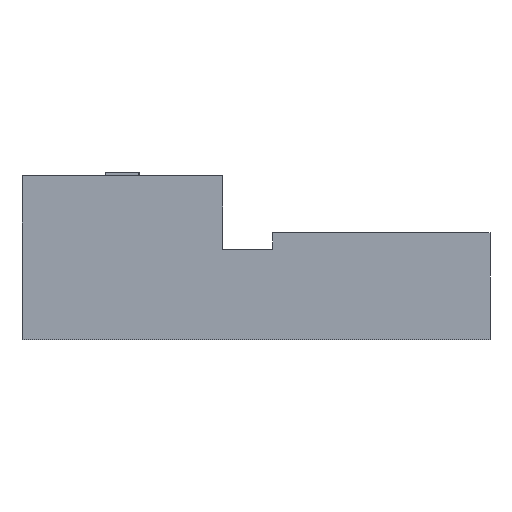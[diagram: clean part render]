
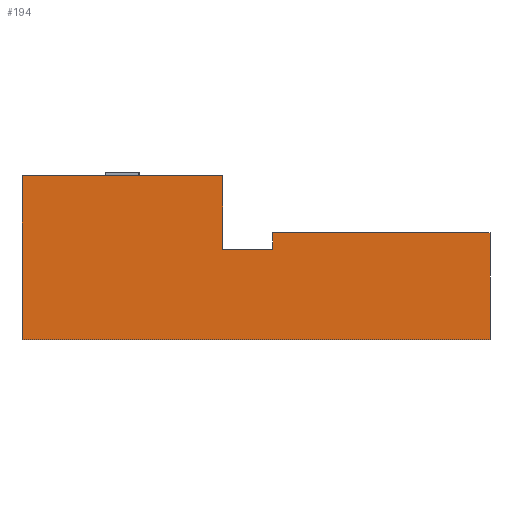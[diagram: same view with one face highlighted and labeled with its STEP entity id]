
A CAD part, left-side view. The second image highlights one B-rep face of the part: STEP entity #194.
In plain terms, the highlighted planar face has unit normal (-1, 0, 0).
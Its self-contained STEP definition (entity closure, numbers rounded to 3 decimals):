
#194=ADVANCED_FACE('',(#322),#324,.T.);
#322=FACE_BOUND('',#323,.T.);
#323=EDGE_LOOP('',(#583,#584,#585,#586,#587,#588,#589,#590));
#324=PLANE('',#325);
#325=AXIS2_PLACEMENT_3D('',#326,#327,#328);
#326=CARTESIAN_POINT('',(-4.5,7.,0.));
#327=DIRECTION('',(-1.,0.,0.));
#328=DIRECTION('',(0.,-1.,0.));
#583=ORIENTED_EDGE('',*,*,#755,.F.);
#584=ORIENTED_EDGE('',*,*,#771,.F.);
#585=ORIENTED_EDGE('',*,*,#769,.T.);
#586=ORIENTED_EDGE('',*,*,#767,.T.);
#587=ORIENTED_EDGE('',*,*,#763,.F.);
#588=ORIENTED_EDGE('',*,*,#762,.T.);
#589=ORIENTED_EDGE('',*,*,#759,.T.);
#590=ORIENTED_EDGE('',*,*,#758,.T.);
#755=EDGE_CURVE('',#916,#918,#919,.T.);
#758=EDGE_CURVE('',#921,#918,#923,.T.);
#759=EDGE_CURVE('',#924,#921,#925,.F.);
#762=EDGE_CURVE('',#927,#924,#929,.F.);
#763=EDGE_CURVE('',#927,#930,#931,.T.);
#767=EDGE_CURVE('',#935,#930,#937,.T.);
#769=EDGE_CURVE('',#938,#935,#940,.T.);
#771=EDGE_CURVE('',#938,#916,#943,.T.);
#916=VERTEX_POINT('',#1085);
#918=VERTEX_POINT('',#1089);
#919=LINE('',#1090,#1091);
#921=VERTEX_POINT('',#1096);
#923=LINE('',#1100,#1101);
#924=VERTEX_POINT('',#1103);
#925=LINE('',#1104,#1105);
#927=VERTEX_POINT('',#1110);
#929=LINE('',#1114,#1115);
#930=VERTEX_POINT('',#1117);
#931=LINE('',#1118,#1119);
#935=VERTEX_POINT('',#1129);
#937=LINE('',#1133,#1134);
#938=VERTEX_POINT('',#1136);
#940=LINE('',#1140,#1141);
#943=LINE('',#1148,#1149);
#1085=CARTESIAN_POINT('',(-4.5,7.,4.9));
#1089=CARTESIAN_POINT('',(-4.5,1.,4.9));
#1090=CARTESIAN_POINT('',(-4.5,7.,4.9));
#1091=VECTOR('',#1092,1.);
#1092=DIRECTION('',(0.,-1.,0.));
#1096=CARTESIAN_POINT('',(-4.5,1.,2.7));
#1100=CARTESIAN_POINT('',(-4.5,1.,2.7));
#1101=VECTOR('',#1102,1.);
#1102=DIRECTION('',(0.,0.,1.));
#1103=CARTESIAN_POINT('',(-4.5,-0.5,2.7));
#1104=CARTESIAN_POINT('',(-4.5,1.,2.7));
#1105=VECTOR('',#1106,1.);
#1106=DIRECTION('',(0.,-1.,0.));
#1110=CARTESIAN_POINT('',(-4.5,-0.5,3.2));
#1114=CARTESIAN_POINT('',(-4.5,-0.5,2.7));
#1115=VECTOR('',#1116,1.);
#1116=DIRECTION('',(0.,0.,1.));
#1117=CARTESIAN_POINT('',(-4.5,-7.,3.2));
#1118=CARTESIAN_POINT('',(-4.5,-0.5,3.2));
#1119=VECTOR('',#1120,1.);
#1120=DIRECTION('',(0.,-1.,0.));
#1129=CARTESIAN_POINT('',(-4.5,-7.,0.));
#1133=CARTESIAN_POINT('',(-4.5,-7.,0.));
#1134=VECTOR('',#1135,1.);
#1135=DIRECTION('',(0.,0.,1.));
#1136=CARTESIAN_POINT('',(-4.5,7.,0.));
#1140=CARTESIAN_POINT('',(-4.5,7.,0.));
#1141=VECTOR('',#1142,1.);
#1142=DIRECTION('',(0.,-1.,0.));
#1148=CARTESIAN_POINT('',(-4.5,7.,0.));
#1149=VECTOR('',#1150,1.);
#1150=DIRECTION('',(0.,0.,1.));
